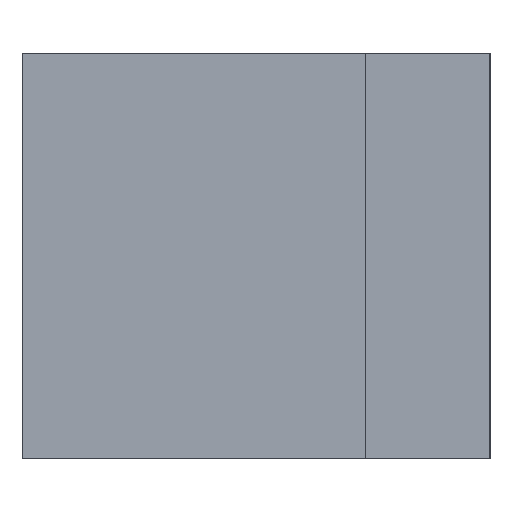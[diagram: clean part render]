
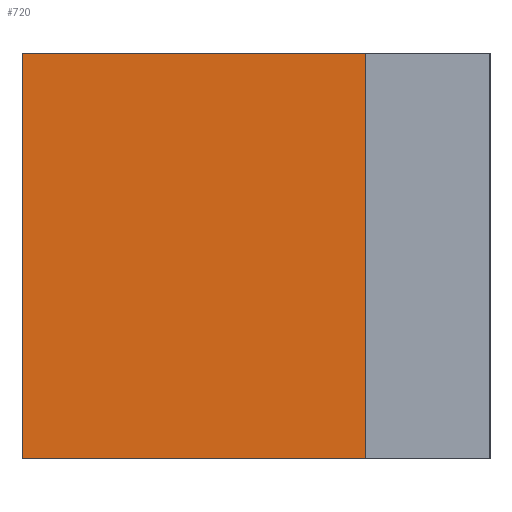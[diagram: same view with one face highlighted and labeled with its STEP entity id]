
A CAD part, left-side view. The second image highlights one B-rep face of the part: STEP entity #720.
In plain terms, the highlighted planar face has unit normal (-1, 0, 0).
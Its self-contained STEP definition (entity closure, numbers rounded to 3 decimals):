
#44 = PLANE('',#45);
#45 = AXIS2_PLACEMENT_3D('',#46,#47,#48);
#46 = CARTESIAN_POINT('',(-99.7,-15.,14.));
#47 = DIRECTION('',(0.,0.,1.));
#48 = DIRECTION('',(1.,0.,0.));
#100 = PLANE('',#101);
#101 = AXIS2_PLACEMENT_3D('',#102,#103,#104);
#102 = CARTESIAN_POINT('',(-99.7,-15.,1.));
#103 = DIRECTION('',(0.,0.,1.));
#104 = DIRECTION('',(1.,0.,0.));
#126 = PLANE('',#127);
#127 = AXIS2_PLACEMENT_3D('',#128,#129,#130);
#128 = CARTESIAN_POINT('',(-111.7,-11.,1.));
#129 = DIRECTION('',(0.,1.,0.));
#130 = DIRECTION('',(0.,0.,1.));
#250 = VERTEX_POINT('',#251);
#251 = CARTESIAN_POINT('',(-111.7,0.,14.));
#265 = PLANE('',#266);
#266 = AXIS2_PLACEMENT_3D('',#267,#268,#269);
#267 = CARTESIAN_POINT('',(-99.7,0.,1.));
#268 = DIRECTION('',(0.,1.,0.));
#269 = DIRECTION('',(0.,0.,1.));
#277 = EDGE_CURVE('',#278,#250,#280,.T.);
#278 = VERTEX_POINT('',#279);
#279 = CARTESIAN_POINT('',(-111.7,-11.,14.));
#280 = SURFACE_CURVE('',#281,(#285,#292),.PCURVE_S1.);
#281 = LINE('',#282,#283);
#282 = CARTESIAN_POINT('',(-111.7,-11.,14.));
#283 = VECTOR('',#284,1.);
#284 = DIRECTION('',(0.,1.,0.));
#285 = PCURVE('',#44,#286);
#286 = DEFINITIONAL_REPRESENTATION('',(#287),#291);
#287 = LINE('',#288,#289);
#288 = CARTESIAN_POINT('',(-12.,4.));
#289 = VECTOR('',#290,1.);
#290 = DIRECTION('',(0.,1.));
#291 = ( GEOMETRIC_REPRESENTATION_CONTEXT(2) 
PARAMETRIC_REPRESENTATION_CONTEXT() REPRESENTATION_CONTEXT('2D SPACE',''
  ) );
#292 = PCURVE('',#293,#298);
#293 = PLANE('',#294);
#294 = AXIS2_PLACEMENT_3D('',#295,#296,#297);
#295 = CARTESIAN_POINT('',(-111.7,-11.,1.));
#296 = DIRECTION('',(1.,0.,0.));
#297 = DIRECTION('',(0.,0.,1.));
#298 = DEFINITIONAL_REPRESENTATION('',(#299),#303);
#299 = LINE('',#300,#301);
#300 = CARTESIAN_POINT('',(13.,0.));
#301 = VECTOR('',#302,1.);
#302 = DIRECTION('',(0.,-1.));
#303 = ( GEOMETRIC_REPRESENTATION_CONTEXT(2) 
PARAMETRIC_REPRESENTATION_CONTEXT() REPRESENTATION_CONTEXT('2D SPACE',''
  ) );
#330 = VERTEX_POINT('',#331);
#331 = CARTESIAN_POINT('',(-111.7,-11.,1.));
#352 = EDGE_CURVE('',#330,#278,#353,.T.);
#353 = SURFACE_CURVE('',#354,(#358,#365),.PCURVE_S1.);
#354 = LINE('',#355,#356);
#355 = CARTESIAN_POINT('',(-111.7,-11.,1.));
#356 = VECTOR('',#357,1.);
#357 = DIRECTION('',(0.,0.,1.));
#358 = PCURVE('',#126,#359);
#359 = DEFINITIONAL_REPRESENTATION('',(#360),#364);
#360 = LINE('',#361,#362);
#361 = CARTESIAN_POINT('',(0.,0.));
#362 = VECTOR('',#363,1.);
#363 = DIRECTION('',(1.,0.));
#364 = ( GEOMETRIC_REPRESENTATION_CONTEXT(2) 
PARAMETRIC_REPRESENTATION_CONTEXT() REPRESENTATION_CONTEXT('2D SPACE',''
  ) );
#365 = PCURVE('',#293,#366);
#366 = DEFINITIONAL_REPRESENTATION('',(#367),#371);
#367 = LINE('',#368,#369);
#368 = CARTESIAN_POINT('',(0.,0.));
#369 = VECTOR('',#370,1.);
#370 = DIRECTION('',(1.,0.));
#371 = ( GEOMETRIC_REPRESENTATION_CONTEXT(2) 
PARAMETRIC_REPRESENTATION_CONTEXT() REPRESENTATION_CONTEXT('2D SPACE',''
  ) );
#507 = VERTEX_POINT('',#508);
#508 = CARTESIAN_POINT('',(-111.7,0.,1.));
#529 = EDGE_CURVE('',#330,#507,#530,.T.);
#530 = SURFACE_CURVE('',#531,(#535,#542),.PCURVE_S1.);
#531 = LINE('',#532,#533);
#532 = CARTESIAN_POINT('',(-111.7,-11.,1.));
#533 = VECTOR('',#534,1.);
#534 = DIRECTION('',(0.,1.,0.));
#535 = PCURVE('',#100,#536);
#536 = DEFINITIONAL_REPRESENTATION('',(#537),#541);
#537 = LINE('',#538,#539);
#538 = CARTESIAN_POINT('',(-12.,4.));
#539 = VECTOR('',#540,1.);
#540 = DIRECTION('',(0.,1.));
#541 = ( GEOMETRIC_REPRESENTATION_CONTEXT(2) 
PARAMETRIC_REPRESENTATION_CONTEXT() REPRESENTATION_CONTEXT('2D SPACE',''
  ) );
#542 = PCURVE('',#293,#543);
#543 = DEFINITIONAL_REPRESENTATION('',(#544),#548);
#544 = LINE('',#545,#546);
#545 = CARTESIAN_POINT('',(0.,0.));
#546 = VECTOR('',#547,1.);
#547 = DIRECTION('',(0.,-1.));
#548 = ( GEOMETRIC_REPRESENTATION_CONTEXT(2) 
PARAMETRIC_REPRESENTATION_CONTEXT() REPRESENTATION_CONTEXT('2D SPACE',''
  ) );
#700 = EDGE_CURVE('',#507,#250,#701,.T.);
#701 = SURFACE_CURVE('',#702,(#706,#713),.PCURVE_S1.);
#702 = LINE('',#703,#704);
#703 = CARTESIAN_POINT('',(-111.7,0.,1.));
#704 = VECTOR('',#705,1.);
#705 = DIRECTION('',(0.,0.,1.));
#706 = PCURVE('',#265,#707);
#707 = DEFINITIONAL_REPRESENTATION('',(#708),#712);
#708 = LINE('',#709,#710);
#709 = CARTESIAN_POINT('',(0.,-12.));
#710 = VECTOR('',#711,1.);
#711 = DIRECTION('',(1.,0.));
#712 = ( GEOMETRIC_REPRESENTATION_CONTEXT(2) 
PARAMETRIC_REPRESENTATION_CONTEXT() REPRESENTATION_CONTEXT('2D SPACE',''
  ) );
#713 = PCURVE('',#293,#714);
#714 = DEFINITIONAL_REPRESENTATION('',(#715),#719);
#715 = LINE('',#716,#717);
#716 = CARTESIAN_POINT('',(0.,-11.));
#717 = VECTOR('',#718,1.);
#718 = DIRECTION('',(1.,0.));
#719 = ( GEOMETRIC_REPRESENTATION_CONTEXT(2) 
PARAMETRIC_REPRESENTATION_CONTEXT() REPRESENTATION_CONTEXT('2D SPACE',''
  ) );
#720 = ADVANCED_FACE('',(#721),#293,.F.);
#721 = FACE_BOUND('',#722,.F.);
#722 = EDGE_LOOP('',(#723,#724,#725,#726));
#723 = ORIENTED_EDGE('',*,*,#352,.F.);
#724 = ORIENTED_EDGE('',*,*,#529,.T.);
#725 = ORIENTED_EDGE('',*,*,#700,.T.);
#726 = ORIENTED_EDGE('',*,*,#277,.F.);
